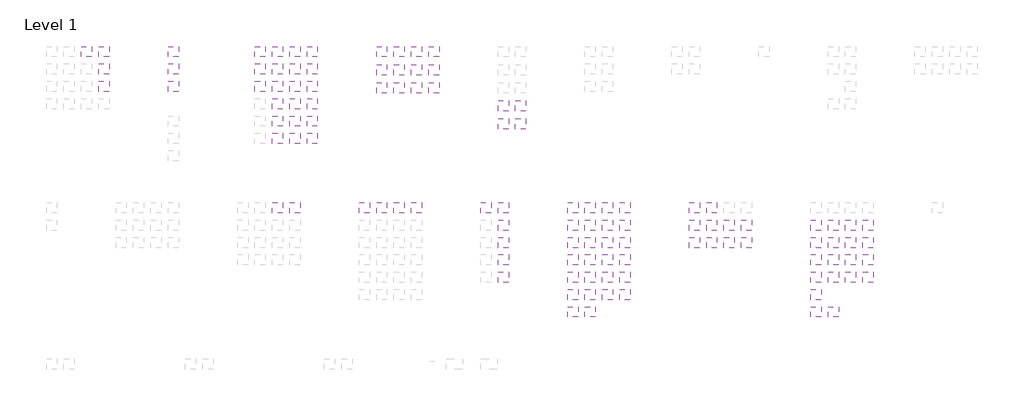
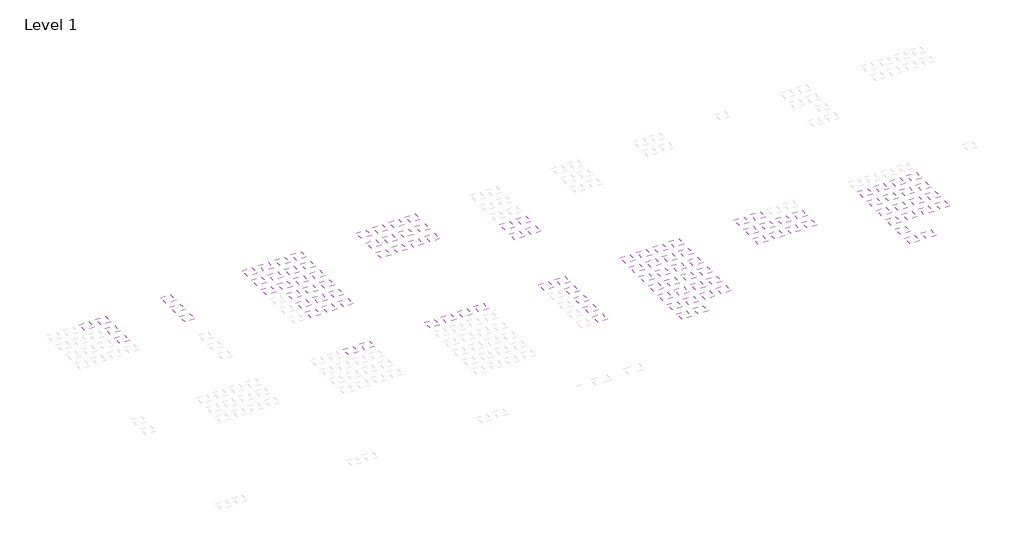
# One storey, part 2 of 4: 111 coverings.
"""IFC4 building model written with IfcOpenShell, lengths in millimetres."""

from ifc_helpers import new_model, si_unit, frame, origin, place, context, project, spatial, polyline, outline, extrude, element, save

model = new_model("IFC4")

# Units and contexts
model_context = context("Model", 3, world=origin())
ifc_project = project(units=[si_unit("LENGTHUNIT", "METRE", prefix="MILLI")], contexts=[model_context])

# Site, building, storey
site = spatial("IfcSite", under=ifc_project)
building = spatial("IfcBuilding", under=site)
storey = spatial("IfcBuildingStorey", under=building, Name="Level 1", Elevation=0.0)

# Coverings
placement = place(None, origin())
element("IfcCovering", 1, ObjectType="OWA Sinfonia l Humancare S3 625x625_15", at=placement, inside=storey, context=model_context, shape_type="SweptSolid", body=[
    extrude(outline(polyline([(68112.2416021, -61373.3850129), (68112.2416021, -64373.3850129), (65112.2416021, -64373.3850129), (65112.2416021, -61373.3850129), (68112.2416021, -61373.3850129)])), frame((0.0, 0.0, 2600.0), z_axis=(0.0, 0.0, 1.0), x_axis=(1.0, 0.0, 0.0)), (0.0, 0.0, 1.0), 38.0),
])
element("IfcCovering", 2, ObjectType="OWA Sinfonia l Humancare S3 625x1250_15", at=placement, inside=storey, context=model_context, shape_type="SweptSolid", body=[
    extrude(outline(polyline([(73110.2416021, -61373.3850129), (73110.2416021, -64373.3850129), (70110.2416021, -64373.3850129), (70110.2416021, -61373.3850129), (73110.2416021, -61373.3850129)])), frame((0.0, 0.0, 2600.0), z_axis=(0.0, 0.0, 1.0), x_axis=(1.0, 0.0, 0.0)), (0.0, 0.0, 1.0), 38.0),
])
element("IfcCovering", 3, ObjectType="OWA New Sandila/N S3 600x600_15", at=placement, inside=storey, context=model_context, shape_type="SweptSolid", body=[
    extrude(outline(polyline([(63114.2416021, -16373.3850129), (63114.2416021, -19373.3850129), (60114.2416021, -19373.3850129), (60114.2416021, -16373.3850129), (63114.2416021, -16373.3850129)])), frame((0.0, 0.0, 2600.0), z_axis=(0.0, 0.0, 1.0), x_axis=(1.0, 0.0, 0.0)), (0.0, 0.0, 1.0), 38.0),
])
element("IfcCovering", 4, ObjectType="OWA New Sandila/N S3 625x625_15", at=placement, inside=storey, context=model_context, shape_type="SweptSolid", body=[
    extrude(outline(polyline([(73114.2416021, -16373.3850129), (73114.2416021, -19373.3850129), (70114.2416021, -19373.3850129), (70114.2416021, -16373.3850129), (73114.2416021, -16373.3850129)])), frame((0.0, 0.0, 2600.0), z_axis=(0.0, 0.0, 1.0), x_axis=(1.0, 0.0, 0.0)), (0.0, 0.0, 1.0), 38.0),
])
element("IfcCovering", 5, ObjectType="OWA New Sandila/N S3 600x1200_15", at=placement, inside=storey, context=model_context, shape_type="SweptSolid", body=[
    extrude(outline(polyline([(68112.2416021, -16373.3850129), (68112.2416021, -19373.3850129), (65112.2416021, -19373.3850129), (65112.2416021, -16373.3850129), (68112.2416021, -16373.3850129)])), frame((0.0, 0.0, 2600.0), z_axis=(0.0, 0.0, 1.0), x_axis=(1.0, 0.0, 0.0)), (0.0, 0.0, 1.0), 38.0),
])
element("IfcCovering", 6, ObjectType="OWA New Sandila/N S3 625x1250_15", at=placement, inside=storey, context=model_context, shape_type="SweptSolid", body=[
    extrude(outline(polyline([(78114.2416021, -16373.3850129), (78114.2416021, -19373.3850129), (75114.2416021, -19373.3850129), (75114.2416021, -16373.3850129), (78114.2416021, -16373.3850129)])), frame((0.0, 0.0, 2600.0), z_axis=(0.0, 0.0, 1.0), x_axis=(1.0, 0.0, 0.0)), (0.0, 0.0, 1.0), 38.0),
])
element("IfcCovering", 7, ObjectType="OWA New Sandila/N S3a 600x600_15", at=placement, inside=storey, context=model_context, shape_type="SweptSolid", body=[
    extrude(outline(polyline([(63114.2416021, -26373.3850129), (63114.2416021, -29373.3850129), (60114.2416021, -29373.3850129), (60114.2416021, -26373.3850129), (63114.2416021, -26373.3850129)])), frame((0.0, 0.0, 2600.0), z_axis=(0.0, 0.0, 1.0), x_axis=(1.0, 0.0, 0.0)), (0.0, 0.0, 1.0), 38.0),
])
element("IfcCovering", 8, ObjectType="OWA New Sandila/N S3a 625x625_15", at=placement, inside=storey, context=model_context, shape_type="SweptSolid", body=[
    extrude(outline(polyline([(73114.2416021, -26373.3850129), (73114.2416021, -29373.3850129), (70114.2416021, -29373.3850129), (70114.2416021, -26373.3850129), (73114.2416021, -26373.3850129)])), frame((0.0, 0.0, 2600.0), z_axis=(0.0, 0.0, 1.0), x_axis=(1.0, 0.0, 0.0)), (0.0, 0.0, 1.0), 38.0),
])
element("IfcCovering", 9, ObjectType="OWA New Sandila/N S3a 600x1200_15", at=placement, inside=storey, context=model_context, shape_type="SweptSolid", body=[
    extrude(outline(polyline([(68112.2416021, -26373.3850129), (68112.2416021, -29373.3850129), (65112.2416021, -29373.3850129), (65112.2416021, -26373.3850129), (68112.2416021, -26373.3850129)])), frame((0.0, 0.0, 2600.0), z_axis=(0.0, 0.0, 1.0), x_axis=(1.0, 0.0, 0.0)), (0.0, 0.0, 1.0), 38.0),
])
element("IfcCovering", 10, ObjectType="OWA New Sandila/N S3a 625x1250_15", at=placement, inside=storey, context=model_context, shape_type="SweptSolid", body=[
    extrude(outline(polyline([(78114.2416021, -26373.3850129), (78114.2416021, -29373.3850129), (75114.2416021, -29373.3850129), (75114.2416021, -26373.3850129), (78114.2416021, -26373.3850129)])), frame((0.0, 0.0, 2600.0), z_axis=(0.0, 0.0, 1.0), x_axis=(1.0, 0.0, 0.0)), (0.0, 0.0, 1.0), 38.0),
])
element("IfcCovering", 11, ObjectType="OWA New Sandila/N S15 cliq 625x625_15", at=placement, inside=storey, context=model_context, shape_type="SweptSolid", body=[
    extrude(outline(polyline([(73114.2416021, -36373.3850129), (73114.2416021, -39373.3850129), (70114.2416021, -39373.3850129), (70114.2416021, -36373.3850129), (73114.2416021, -36373.3850129)])), frame((0.0, 0.0, 2600.0), z_axis=(0.0, 0.0, 1.0), x_axis=(1.0, 0.0, 0.0)), (0.0, 0.0, 1.0), 38.0),
])
element("IfcCovering", 12, ObjectType="OWA New Sandila/N S15 cliq 600x1200_15", at=placement, inside=storey, context=model_context, shape_type="SweptSolid", body=[
    extrude(outline(polyline([(68112.2416021, -36371.3850129), (68112.2416021, -39371.3850129), (65112.2416021, -39371.3850129), (65112.2416021, -36371.3850129), (68112.2416021, -36371.3850129)])), frame((0.0, 0.0, 2600.0), z_axis=(0.0, 0.0, 1.0), x_axis=(1.0, 0.0, 0.0)), (0.0, 0.0, 1.0), 38.0),
])
element("IfcCovering", 13, ObjectType="OWA New Sandila/N S15 cliq 625x1250_15", at=placement, inside=storey, context=model_context, shape_type="SweptSolid", body=[
    extrude(outline(polyline([(78114.2416021, -36373.3850129), (78114.2416021, -39373.3850129), (75114.2416021, -39373.3850129), (75114.2416021, -36373.3850129), (78114.2416021, -36373.3850129)])), frame((0.0, 0.0, 2600.0), z_axis=(0.0, 0.0, 1.0), x_axis=(1.0, 0.0, 0.0)), (0.0, 0.0, 1.0), 38.0),
])
element("IfcCovering", 14, ObjectType="OWA New Sandila/N S15a cliq 625x625_15", at=placement, inside=storey, context=model_context, shape_type="SweptSolid", body=[
    extrude(outline(polyline([(73114.2416021, -41373.3850129), (73114.2416021, -44373.3850129), (70114.2416021, -44373.3850129), (70114.2416021, -41373.3850129), (73114.2416021, -41373.3850129)])), frame((0.0, 0.0, 2600.0), z_axis=(0.0, 0.0, 1.0), x_axis=(1.0, 0.0, 0.0)), (0.0, 0.0, 1.0), 38.0),
])
element("IfcCovering", 15, ObjectType="OWA New Sandila/N S15a cliq 600x1200_15", at=placement, inside=storey, context=model_context, shape_type="SweptSolid", body=[
    extrude(outline(polyline([(68112.2416021, -41373.3850129), (68112.2416021, -44373.3850129), (65112.2416021, -44373.3850129), (65112.2416021, -41373.3850129), (68112.2416021, -41373.3850129)])), frame((0.0, 0.0, 2600.0), z_axis=(0.0, 0.0, 1.0), x_axis=(1.0, 0.0, 0.0)), (0.0, 0.0, 1.0), 38.0),
])
element("IfcCovering", 16, ObjectType="OWA New Sandila/N S15a cliq 625x1250_15", at=placement, inside=storey, context=model_context, shape_type="SweptSolid", body=[
    extrude(outline(polyline([(78114.2416021, -41373.3850129), (78114.2416021, -44373.3850129), (75114.2416021, -44373.3850129), (75114.2416021, -41373.3850129), (78114.2416021, -41373.3850129)])), frame((0.0, 0.0, 2600.0), z_axis=(0.0, 0.0, 1.0), x_axis=(1.0, 0.0, 0.0)), (0.0, 0.0, 1.0), 38.0),
])
element("IfcCovering", 17, ObjectType="OWA New Sandila/N S3a cliq 625x625_15", at=placement, inside=storey, context=model_context, shape_type="SweptSolid", body=[
    extrude(outline(polyline([(73114.2416021, -31373.3850129), (73114.2416021, -34373.3850129), (70114.2416021, -34373.3850129), (70114.2416021, -31373.3850129), (73114.2416021, -31373.3850129)])), frame((0.0, 0.0, 2600.0), z_axis=(0.0, 0.0, 1.0), x_axis=(1.0, 0.0, 0.0)), (0.0, 0.0, 1.0), 38.0),
])
element("IfcCovering", 18, ObjectType="OWA New Sandila/N S3a cliq 600x1200_15", at=placement, inside=storey, context=model_context, shape_type="SweptSolid", body=[
    extrude(outline(polyline([(68112.2416021, -31373.3850129), (68112.2416021, -34373.3850129), (65112.2416021, -34373.3850129), (65112.2416021, -31373.3850129), (68112.2416021, -31373.3850129)])), frame((0.0, 0.0, 2600.0), z_axis=(0.0, 0.0, 1.0), x_axis=(1.0, 0.0, 0.0)), (0.0, 0.0, 1.0), 38.0),
])
element("IfcCovering", 19, ObjectType="OWA New Sandila/N S3a cliq 625x1250_15", at=placement, inside=storey, context=model_context, shape_type="SweptSolid", body=[
    extrude(outline(polyline([(78114.2416021, -31373.3850129), (78114.2416021, -34373.3850129), (75114.2416021, -34373.3850129), (75114.2416021, -31373.3850129), (78114.2416021, -31373.3850129)])), frame((0.0, 0.0, 2600.0), z_axis=(0.0, 0.0, 1.0), x_axis=(1.0, 0.0, 0.0)), (0.0, 0.0, 1.0), 38.0),
])
element("IfcCovering", 20, ObjectType="OWA New Sandila/N S3 cliq 600x600_15", at=placement, inside=storey, context=model_context, shape_type="SweptSolid", body=[
    extrude(outline(polyline([(63114.2416021, -21373.3850129), (63114.2416021, -24373.3850129), (60114.2416021, -24373.3850129), (60114.2416021, -21373.3850129), (63114.2416021, -21373.3850129)])), frame((0.0, 0.0, 2600.0), z_axis=(0.0, 0.0, 1.0), x_axis=(1.0, 0.0, 0.0)), (0.0, 0.0, 1.0), 38.0),
])
element("IfcCovering", 21, ObjectType="OWA New Sandila/N S3 cliq 625x625_15", at=placement, inside=storey, context=model_context, shape_type="SweptSolid", body=[
    extrude(outline(polyline([(73114.2416021, -21373.3850129), (73114.2416021, -24373.3850129), (70114.2416021, -24373.3850129), (70114.2416021, -21373.3850129), (73114.2416021, -21373.3850129)])), frame((0.0, 0.0, 2600.0), z_axis=(0.0, 0.0, 1.0), x_axis=(1.0, 0.0, 0.0)), (0.0, 0.0, 1.0), 38.0),
])
element("IfcCovering", 22, ObjectType="OWA New Sandila/N S3 cliq 600x1200_15", at=placement, inside=storey, context=model_context, shape_type="SweptSolid", body=[
    extrude(outline(polyline([(68112.2416021, -21373.3850129), (68112.2416021, -24373.3850129), (65112.2416021, -24373.3850129), (65112.2416021, -21373.3850129), (68112.2416021, -21373.3850129)])), frame((0.0, 0.0, 2600.0), z_axis=(0.0, 0.0, 1.0), x_axis=(1.0, 0.0, 0.0)), (0.0, 0.0, 1.0), 38.0),
])
element("IfcCovering", 23, ObjectType="OWA New Sandila/N S3 cliq 625x1250_15", at=placement, inside=storey, context=model_context, shape_type="SweptSolid", body=[
    extrude(outline(polyline([(78114.2416021, -21373.3850129), (78114.2416021, -24373.3850129), (75114.2416021, -24373.3850129), (75114.2416021, -21373.3850129), (78114.2416021, -21373.3850129)])), frame((0.0, 0.0, 2600.0), z_axis=(0.0, 0.0, 1.0), x_axis=(1.0, 0.0, 0.0)), (0.0, 0.0, 1.0), 38.0),
])
element("IfcCovering", 24, ObjectType="OWA New Sandila/NRC S3a cliq 625x625_15", at=placement, inside=storey, context=model_context, shape_type="SweptSolid", body=[
    extrude(outline(polyline([(138114.2416021, -31973.3850129), (138114.2416021, -34973.3850129), (135114.2416021, -34973.3850129), (135114.2416021, -31973.3850129), (138114.2416021, -31973.3850129)])), frame((0.0, 0.0, 2600.0), z_axis=(0.0, 0.0, 1.0), x_axis=(1.0, 0.0, 0.0)), (0.0, 0.0, 1.0), 38.0),
])
element("IfcCovering", 25, ObjectType="OWA New Sandila/NRC S15 cliq 625x625_15", at=placement, inside=storey, context=model_context, shape_type="SweptSolid", body=[
    extrude(outline(polyline([(138114.2416021, -37173.3850129), (138114.2416021, -40173.3850129), (135114.2416021, -40173.3850129), (135114.2416021, -37173.3850129), (138114.2416021, -37173.3850129)])), frame((0.0, 0.0, 2600.0), z_axis=(0.0, 0.0, 1.0), x_axis=(1.0, 0.0, 0.0)), (0.0, 0.0, 1.0), 38.0),
])
element("IfcCovering", 26, ObjectType="OWA New Sandila/NRC S15 cliq 600x600_15", at=placement, inside=storey, context=model_context, shape_type="SweptSolid", body=[
    extrude(outline(polyline([(133114.2416021, -37173.3850129), (133114.2416021, -40173.3850129), (130114.2416021, -40173.3850129), (130114.2416021, -37173.3850129), (133114.2416021, -37173.3850129)])), frame((0.0, 0.0, 2600.0), z_axis=(0.0, 0.0, 1.0), x_axis=(1.0, 0.0, 0.0)), (0.0, 0.0, 1.0), 38.0),
])
element("IfcCovering", 27, ObjectType="OWA New Sandila/NRC S3a cliq 600x600_15", at=placement, inside=storey, context=model_context, shape_type="SweptSolid", body=[
    extrude(outline(polyline([(133114.2416021, -31973.3850129), (133114.2416021, -34973.3850129), (130114.2416021, -34973.3850129), (130114.2416021, -31973.3850129), (133114.2416021, -31973.3850129)])), frame((0.0, 0.0, 2600.0), z_axis=(0.0, 0.0, 1.0), x_axis=(1.0, 0.0, 0.0)), (0.0, 0.0, 1.0), 38.0),
])
element("IfcCovering", 28, ObjectType="OWA Sinfonia Privacy S3 600x600_20", at=placement, inside=storey, context=model_context, shape_type="SweptSolid", body=[
    extrude(outline(polyline([(93110.2416021, -61373.3850129), (93110.2416021, -64373.3850129), (90110.2416021, -64373.3850129), (90110.2416021, -61373.3850129), (93110.2416021, -61373.3850129)])), frame((0.0, 0.0, 2600.0), z_axis=(0.0, 0.0, 1.0), x_axis=(1.0, 0.0, 0.0)), (0.0, 0.0, 1.0), 38.0),
])
element("IfcCovering", 29, ObjectType="OWA Sinfonia Privacy S3 625x625_20", at=placement, inside=storey, context=model_context, shape_type="SweptSolid", body=[
    extrude(outline(polyline([(103110.2416021, -61373.3850129), (103110.2416021, -64373.3850129), (100110.2416021, -64373.3850129), (100110.2416021, -61373.3850129), (103110.2416021, -61373.3850129)])), frame((0.0, 0.0, 2600.0), z_axis=(0.0, 0.0, 1.0), x_axis=(1.0, 0.0, 0.0)), (0.0, 0.0, 1.0), 38.0),
])
element("IfcCovering", 30, ObjectType="OWA Sinfonia Privacy S3 600x1200_20", at=placement, inside=storey, context=model_context, shape_type="SweptSolid", body=[
    extrude(outline(polyline([(98112.2416021, -61373.3850129), (98112.2416021, -64373.3850129), (95112.2416021, -64373.3850129), (95112.2416021, -61373.3850129), (98112.2416021, -61373.3850129)])), frame((0.0, 0.0, 2600.0), z_axis=(0.0, 0.0, 1.0), x_axis=(1.0, 0.0, 0.0)), (0.0, 0.0, 1.0), 38.0),
])
element("IfcCovering", 31, ObjectType="OWA Sinfonia Privacy S3 625x1250_20", at=placement, inside=storey, context=model_context, shape_type="SweptSolid", body=[
    extrude(outline(polyline([(108112.2416021, -61373.3850129), (108112.2416021, -64373.3850129), (105112.2416021, -64373.3850129), (105112.2416021, -61373.3850129), (108112.2416021, -61373.3850129)])), frame((0.0, 0.0, 2600.0), z_axis=(0.0, 0.0, 1.0), x_axis=(1.0, 0.0, 0.0)), (0.0, 0.0, 1.0), 38.0),
])
element("IfcCovering", 32, ObjectType="OWA Sinfonia Reflecta S3 625x625_15", at=placement, inside=storey, context=model_context, shape_type="SweptSolid", body=[
    extrude(outline(polyline([(133108.2416021, -61373.3850129), (133108.2416021, -64373.3850129), (130108.2416021, -64373.3850129), (130108.2416021, -61373.3850129), (133108.2416021, -61373.3850129)])), frame((0.0, 0.0, 2600.0), z_axis=(0.0, 0.0, 1.0), x_axis=(1.0, 0.0, 0.0)), (0.0, 0.0, 1.0), 38.0),
])
element("IfcCovering", 33, ObjectType="OWA Sinfonia Reflecta S3 600x600_15", at=placement, inside=storey, context=model_context, shape_type="SweptSolid", body=[
    extrude(outline(polyline([(128108.2416021, -61373.3850129), (128108.2416021, -64373.3850129), (125108.2416021, -64373.3850129), (125108.2416021, -61373.3850129), (128108.2416021, -61373.3850129)])), frame((0.0, 0.0, 2600.0), z_axis=(0.0, 0.0, 1.0), x_axis=(1.0, 0.0, 0.0)), (0.0, 0.0, 1.0), 38.0),
])
element("IfcCovering", 34, ObjectType="OWA Sinfonia Reflecta S3a 625x625_15", at=placement, inside=storey, context=model_context, shape_type="SweptSolid", body=[
    extrude(outline(polyline([(133108.2416021, -71373.3850129), (133108.2416021, -74373.3850129), (130108.2416021, -74373.3850129), (130108.2416021, -71373.3850129), (133108.2416021, -71373.3850129)])), frame((0.0, 0.0, 2600.0), z_axis=(0.0, 0.0, 1.0), x_axis=(1.0, 0.0, 0.0)), (0.0, 0.0, 1.0), 38.0),
])
element("IfcCovering", 35, ObjectType="OWA Sinfonia S15b 600x600_15", at=placement, inside=storey, context=model_context, shape_type="SweptSolid", body=[
    extrude(outline(polyline([(153110.2416021, -91373.3850129), (153110.2416021, -94373.3850129), (150110.2416021, -94373.3850129), (150110.2416021, -91373.3850129), (153110.2416021, -91373.3850129)])), frame((0.0, 0.0, 2600.0), z_axis=(0.0, 0.0, 1.0), x_axis=(1.0, 0.0, 0.0)), (0.0, 0.0, 1.0), 38.0),
])
element("IfcCovering", 36, ObjectType="OWA Sinfonia S15b 625x625_15", at=placement, inside=storey, context=model_context, shape_type="SweptSolid", body=[
    extrude(outline(polyline([(158108.2416021, -91375.3850129), (158108.2416021, -94375.3850129), (155108.2416021, -94375.3850129), (155108.2416021, -91375.3850129), (158108.2416021, -91375.3850129)])), frame((0.0, 0.0, 2600.0), z_axis=(0.0, 0.0, 1.0), x_axis=(1.0, 0.0, 0.0)), (0.0, 0.0, 1.0), 38.0),
])
element("IfcCovering", 37, ObjectType="OWA Sinfonia S3a 600x600_15", at=placement, inside=storey, context=model_context, shape_type="SweptSolid", body=[
    extrude(outline(polyline([(153110.2416021, -71373.3850129), (153110.2416021, -74373.3850129), (150110.2416021, -74373.3850129), (150110.2416021, -71373.3850129), (153110.2416021, -71373.3850129)])), frame((0.0, 0.0, 2600.0), z_axis=(0.0, 0.0, 1.0), x_axis=(1.0, 0.0, 0.0)), (0.0, 0.0, 1.0), 38.0),
])
element("IfcCovering", 38, ObjectType="OWA Sinfonia S3a 625x625_15", at=placement, inside=storey, context=model_context, shape_type="SweptSolid", body=[
    extrude(outline(polyline([(163106.2416021, -71373.3850129), (163106.2416021, -74373.3850129), (160106.2416021, -74373.3850129), (160106.2416021, -71373.3850129), (163106.2416021, -71373.3850129)])), frame((0.0, 0.0, 2600.0), z_axis=(0.0, 0.0, 1.0), x_axis=(1.0, 0.0, 0.0)), (0.0, 0.0, 1.0), 38.0),
])
element("IfcCovering", 39, ObjectType="OWA Sinfonia S3a 600x1200_15", at=placement, inside=storey, context=model_context, shape_type="SweptSolid", body=[
    extrude(outline(polyline([(158108.2416021, -71373.3850129), (158108.2416021, -74373.3850129), (155108.2416021, -74373.3850129), (155108.2416021, -71373.3850129), (158108.2416021, -71373.3850129)])), frame((0.0, 0.0, 2600.0), z_axis=(0.0, 0.0, 1.0), x_axis=(1.0, 0.0, 0.0)), (0.0, 0.0, 1.0), 38.0),
])
element("IfcCovering", 40, ObjectType="OWA Sinfonia S3a 625x1250_15", at=placement, inside=storey, context=model_context, shape_type="SweptSolid", body=[
    extrude(outline(polyline([(168108.2416021, -71373.3850129), (168108.2416021, -74373.3850129), (165108.2416021, -74373.3850129), (165108.2416021, -71373.3850129), (168108.2416021, -71373.3850129)])), frame((0.0, 0.0, 2600.0), z_axis=(0.0, 0.0, 1.0), x_axis=(1.0, 0.0, 0.0)), (0.0, 0.0, 1.0), 38.0),
])
element("IfcCovering", 41, ObjectType="OWA Sinfonia S15 cliq 600x600_15", at=placement, inside=storey, context=model_context, shape_type="SweptSolid", body=[
    extrude(outline(polyline([(153110.2416021, -81373.3850129), (153110.2416021, -84373.3850129), (150110.2416021, -84373.3850129), (150110.2416021, -81373.3850129), (153110.2416021, -81373.3850129)])), frame((0.0, 0.0, 2600.0), z_axis=(0.0, 0.0, 1.0), x_axis=(1.0, 0.0, 0.0)), (0.0, 0.0, 1.0), 38.0),
])
element("IfcCovering", 42, ObjectType="OWA Sinfonia S15 cliq 625x625_15", at=placement, inside=storey, context=model_context, shape_type="SweptSolid", body=[
    extrude(outline(polyline([(163106.2416021, -81373.3850129), (163106.2416021, -84373.3850129), (160106.2416021, -84373.3850129), (160106.2416021, -81373.3850129), (163106.2416021, -81373.3850129)])), frame((0.0, 0.0, 2600.0), z_axis=(0.0, 0.0, 1.0), x_axis=(1.0, 0.0, 0.0)), (0.0, 0.0, 1.0), 38.0),
])
element("IfcCovering", 43, ObjectType="OWA Sinfonia S15 cliq 600x1200_15", at=placement, inside=storey, context=model_context, shape_type="SweptSolid", body=[
    extrude(outline(polyline([(158108.2416021, -81373.3850129), (158108.2416021, -84373.3850129), (155108.2416021, -84373.3850129), (155108.2416021, -81373.3850129), (158108.2416021, -81373.3850129)])), frame((0.0, 0.0, 2600.0), z_axis=(0.0, 0.0, 1.0), x_axis=(1.0, 0.0, 0.0)), (0.0, 0.0, 1.0), 38.0),
])
element("IfcCovering", 44, ObjectType="OWA Sinfonia S15 cliq 625x1250_15", at=placement, inside=storey, context=model_context, shape_type="SweptSolid", body=[
    extrude(outline(polyline([(168108.2416021, -81373.3850129), (168108.2416021, -84373.3850129), (165108.2416021, -84373.3850129), (165108.2416021, -81373.3850129), (168108.2416021, -81373.3850129)])), frame((0.0, 0.0, 2600.0), z_axis=(0.0, 0.0, 1.0), x_axis=(1.0, 0.0, 0.0)), (0.0, 0.0, 1.0), 38.0),
])
element("IfcCovering", 45, ObjectType="OWA Sinfonia S15a cliq 600x600_15", at=placement, inside=storey, context=model_context, shape_type="SweptSolid", body=[
    extrude(outline(polyline([(153110.2416021, -86373.3850129), (153110.2416021, -89373.3850129), (150110.2416021, -89373.3850129), (150110.2416021, -86373.3850129), (153110.2416021, -86373.3850129)])), frame((0.0, 0.0, 2600.0), z_axis=(0.0, 0.0, 1.0), x_axis=(1.0, 0.0, 0.0)), (0.0, 0.0, 1.0), 38.0),
])
element("IfcCovering", 46, ObjectType="OWA Sinfonia S15a cliq 600x1200_15", at=placement, inside=storey, context=model_context, shape_type="SweptSolid", body=[
    extrude(outline(polyline([(158108.2416021, -86373.3850129), (158108.2416021, -89373.3850129), (155108.2416021, -89373.3850129), (155108.2416021, -86373.3850129), (158108.2416021, -86373.3850129)])), frame((0.0, 0.0, 2600.0), z_axis=(0.0, 0.0, 1.0), x_axis=(1.0, 0.0, 0.0)), (0.0, 0.0, 1.0), 38.0),
])
element("IfcCovering", 47, ObjectType="OWA Sinfonia S15a cliq 625x1250_15", at=placement, inside=storey, context=model_context, shape_type="SweptSolid", body=[
    extrude(outline(polyline([(168108.2416021, -86373.3850129), (168108.2416021, -89373.3850129), (165108.2416021, -89373.3850129), (165108.2416021, -86373.3850129), (168108.2416021, -86373.3850129)])), frame((0.0, 0.0, 2600.0), z_axis=(0.0, 0.0, 1.0), x_axis=(1.0, 0.0, 0.0)), (0.0, 0.0, 1.0), 38.0),
])
element("IfcCovering", 48, ObjectType="OWA Sinfonia S15a cliq 625x625_15", at=placement, inside=storey, context=model_context, shape_type="SweptSolid", body=[
    extrude(outline(polyline([(163106.2416021, -86373.3850129), (163106.2416021, -89373.3850129), (160106.2416021, -89373.3850129), (160106.2416021, -86373.3850129), (163106.2416021, -86373.3850129)])), frame((0.0, 0.0, 2600.0), z_axis=(0.0, 0.0, 1.0), x_axis=(1.0, 0.0, 0.0)), (0.0, 0.0, 1.0), 38.0),
])
element("IfcCovering", 49, ObjectType="OWA Sinfonia S3a cliq 600x600_15", at=placement, inside=storey, context=model_context, shape_type="SweptSolid", body=[
    extrude(outline(polyline([(153110.2416021, -76373.3850129), (153110.2416021, -79373.3850129), (150110.2416021, -79373.3850129), (150110.2416021, -76373.3850129), (153110.2416021, -76373.3850129)])), frame((0.0, 0.0, 2600.0), z_axis=(0.0, 0.0, 1.0), x_axis=(1.0, 0.0, 0.0)), (0.0, 0.0, 1.0), 38.0),
])
element("IfcCovering", 50, ObjectType="OWA Sinfonia S3a cliq 625x625_15", at=placement, inside=storey, context=model_context, shape_type="SweptSolid", body=[
    extrude(outline(polyline([(163106.2416021, -76373.3850129), (163106.2416021, -79373.3850129), (160106.2416021, -79373.3850129), (160106.2416021, -76373.3850129), (163106.2416021, -76373.3850129)])), frame((0.0, 0.0, 2600.0), z_axis=(0.0, 0.0, 1.0), x_axis=(1.0, 0.0, 0.0)), (0.0, 0.0, 1.0), 38.0),
])
element("IfcCovering", 51, ObjectType="OWA Sinfonia S3a cliq 600x1200_15", at=placement, inside=storey, context=model_context, shape_type="SweptSolid", body=[
    extrude(outline(polyline([(158108.2416021, -76373.3850129), (158108.2416021, -79373.3850129), (155108.2416021, -79373.3850129), (155108.2416021, -76373.3850129), (158108.2416021, -76373.3850129)])), frame((0.0, 0.0, 2600.0), z_axis=(0.0, 0.0, 1.0), x_axis=(1.0, 0.0, 0.0)), (0.0, 0.0, 1.0), 38.0),
])
element("IfcCovering", 52, ObjectType="OWA Sinfonia S3a cliq 625x1250_15", at=placement, inside=storey, context=model_context, shape_type="SweptSolid", body=[
    extrude(outline(polyline([(168108.2416021, -76373.3850129), (168108.2416021, -79373.3850129), (165108.2416021, -79373.3850129), (165108.2416021, -76373.3850129), (168108.2416021, -76373.3850129)])), frame((0.0, 0.0, 2600.0), z_axis=(0.0, 0.0, 1.0), x_axis=(1.0, 0.0, 0.0)), (0.0, 0.0, 1.0), 38.0),
])
element("IfcCovering", 53, ObjectType="OWA Sinfonia S3 cliq 600x600_15", at=placement, inside=storey, context=model_context, shape_type="SweptSolid", body=[
    extrude(outline(polyline([(153110.2416021, -66373.3850129), (153110.2416021, -69373.3850129), (150110.2416021, -69373.3850129), (150110.2416021, -66373.3850129), (153110.2416021, -66373.3850129)])), frame((0.0, 0.0, 2600.0), z_axis=(0.0, 0.0, 1.0), x_axis=(1.0, 0.0, 0.0)), (0.0, 0.0, 1.0), 38.0),
])
element("IfcCovering", 54, ObjectType="OWA Sinfonia S3 cliq 625x625_15", at=placement, inside=storey, context=model_context, shape_type="SweptSolid", body=[
    extrude(outline(polyline([(163106.2416021, -66373.3850129), (163106.2416021, -69373.3850129), (160106.2416021, -69373.3850129), (160106.2416021, -66373.3850129), (163106.2416021, -66373.3850129)])), frame((0.0, 0.0, 2600.0), z_axis=(0.0, 0.0, 1.0), x_axis=(1.0, 0.0, 0.0)), (0.0, 0.0, 1.0), 38.0),
])
element("IfcCovering", 55, ObjectType="OWA Sinfonia S3 cliq 600x1200_15", at=placement, inside=storey, context=model_context, shape_type="SweptSolid", body=[
    extrude(outline(polyline([(158108.2416021, -66373.3850129), (158108.2416021, -69373.3850129), (155108.2416021, -69373.3850129), (155108.2416021, -66373.3850129), (158108.2416021, -66373.3850129)])), frame((0.0, 0.0, 2600.0), z_axis=(0.0, 0.0, 1.0), x_axis=(1.0, 0.0, 0.0)), (0.0, 0.0, 1.0), 38.0),
])
element("IfcCovering", 56, ObjectType="OWA Sinfonia S3 600x600_15", at=placement, inside=storey, context=model_context, shape_type="SweptSolid", body=[
    extrude(outline(polyline([(153110.2416021, -61373.3850129), (153110.2416021, -64373.3850129), (150110.2416021, -64373.3850129), (150110.2416021, -61373.3850129), (153110.2416021, -61373.3850129)])), frame((0.0, 0.0, 2600.0), z_axis=(0.0, 0.0, 1.0), x_axis=(1.0, 0.0, 0.0)), (0.0, 0.0, 1.0), 38.0),
])
element("IfcCovering", 57, ObjectType="OWA Sinfonia S3 625x625_15", at=placement, inside=storey, context=model_context, shape_type="SweptSolid", body=[
    extrude(outline(polyline([(163106.2416021, -61373.3850129), (163106.2416021, -64373.3850129), (160106.2416021, -64373.3850129), (160106.2416021, -61373.3850129), (163106.2416021, -61373.3850129)])), frame((0.0, 0.0, 2600.0), z_axis=(0.0, 0.0, 1.0), x_axis=(1.0, 0.0, 0.0)), (0.0, 0.0, 1.0), 38.0),
])
element("IfcCovering", 58, ObjectType="OWA Sinfonia S3 600x1200_15", at=placement, inside=storey, context=model_context, shape_type="SweptSolid", body=[
    extrude(outline(polyline([(158108.2416021, -61373.3850129), (158108.2416021, -64373.3850129), (155108.2416021, -64373.3850129), (155108.2416021, -61373.3850129), (158108.2416021, -61373.3850129)])), frame((0.0, 0.0, 2600.0), z_axis=(0.0, 0.0, 1.0), x_axis=(1.0, 0.0, 0.0)), (0.0, 0.0, 1.0), 38.0),
])
element("IfcCovering", 59, ObjectType="OWA Sinfonia S3 625x1250_15", at=placement, inside=storey, context=model_context, shape_type="SweptSolid", body=[
    extrude(outline(polyline([(168108.2416021, -61373.3850129), (168108.2416021, -64373.3850129), (165108.2416021, -64373.3850129), (165108.2416021, -61373.3850129), (168108.2416021, -61373.3850129)])), frame((0.0, 0.0, 2600.0), z_axis=(0.0, 0.0, 1.0), x_axis=(1.0, 0.0, 0.0)), (0.0, 0.0, 1.0), 38.0),
])
element("IfcCovering", 60, ObjectType="OWA Sinfonia S3 cliq 625x1250_15", at=placement, inside=storey, context=model_context, shape_type="SweptSolid", body=[
    extrude(outline(polyline([(168108.2416021, -66373.3850129), (168108.2416021, -69373.3850129), (165108.2416021, -69373.3850129), (165108.2416021, -66373.3850129), (168108.2416021, -66373.3850129)])), frame((0.0, 0.0, 2600.0), z_axis=(0.0, 0.0, 1.0), x_axis=(1.0, 0.0, 0.0)), (0.0, 0.0, 1.0), 38.0),
])
element("IfcCovering", 61, ObjectType="OWA Sinfonia Silencia l Humancare S3 600x1200_20", at=placement, inside=storey, context=model_context, shape_type="SweptSolid", body=[
    extrude(outline(polyline([(193108.2416021, -61373.3850129), (193108.2416021, -64373.3850129), (190108.2416021, -64373.3850129), (190108.2416021, -61373.3850129), (193108.2416021, -61373.3850129)])), frame((0.0, 0.0, 2600.0), z_axis=(0.0, 0.0, 1.0), x_axis=(1.0, 0.0, 0.0)), (0.0, 0.0, 1.0), 38.0),
])
element("IfcCovering", 62, ObjectType="OWA Sinfonia Silencia l Humancare S3 600x600_20", at=placement, inside=storey, context=model_context, shape_type="SweptSolid", body=[
    extrude(outline(polyline([(188108.2416021, -61373.3850129), (188108.2416021, -64373.3850129), (185108.2416021, -64373.3850129), (185108.2416021, -61373.3850129), (188108.2416021, -61373.3850129)])), frame((0.0, 0.0, 2600.0), z_axis=(0.0, 0.0, 1.0), x_axis=(1.0, 0.0, 0.0)), (0.0, 0.0, 1.0), 38.0),
])
element("IfcCovering", 63, ObjectType="OWA Humancare Pro S3 625x625_20", at=placement, inside=storey, context=model_context, shape_type="SweptSolid", body=[
    extrude(outline(polyline([(13112.2416021, -16373.3850129), (13112.2416021, -19373.3850129), (10112.2416021, -19373.3850129), (10112.2416021, -16373.3850129), (13112.2416021, -16373.3850129)])), frame((0.0, 0.0, 2600.0), z_axis=(0.0, 0.0, 1.0), x_axis=(1.0, 0.0, 0.0)), (0.0, 0.0, 1.0), 38.0),
])
element("IfcCovering", 64, ObjectType="OWA Humancare Pro S3 625x1250_20", at=placement, inside=storey, context=model_context, shape_type="SweptSolid", body=[
    extrude(outline(polyline([(18112.2416021, -16373.3850129), (18112.2416021, -19373.3850129), (15112.2416021, -19373.3850129), (15112.2416021, -16373.3850129), (18112.2416021, -16373.3850129)])), frame((0.0, 0.0, 2600.0), z_axis=(0.0, 0.0, 1.0), x_axis=(1.0, 0.0, 0.0)), (0.0, 0.0, 1.0), 38.0),
])
element("IfcCovering", 65, ObjectType="OWA Humancare Pro S3 cliq 625x1250_20", at=placement, inside=storey, context=model_context, shape_type="SweptSolid", body=[
    extrude(outline(polyline([(18112.2416021, -21373.3850129), (18112.2416021, -24373.3850129), (15112.2416021, -24373.3850129), (15112.2416021, -21373.3850129), (18112.2416021, -21373.3850129)])), frame((0.0, 0.0, 2600.0), z_axis=(0.0, 0.0, 1.0), x_axis=(1.0, 0.0, 0.0)), (0.0, 0.0, 1.0), 38.0),
])
element("IfcCovering", 66, ObjectType="OWA Humancare Pro S3e 625x1250_20", at=placement, inside=storey, context=model_context, shape_type="SweptSolid", body=[
    extrude(outline(polyline([(18114.2416021, -26373.3850129), (18114.2416021, -29373.3850129), (15114.2416021, -29373.3850129), (15114.2416021, -26373.3850129), (18114.2416021, -26373.3850129)])), frame((0.0, 0.0, 2600.0), z_axis=(0.0, 0.0, 1.0), x_axis=(1.0, 0.0, 0.0)), (0.0, 0.0, 1.0), 38.0),
])
element("IfcCovering", 67, ObjectType="OWA New Sandila/N smart S3 600x600_14", at=placement, inside=storey, context=model_context, shape_type="SweptSolid", body=[
    extrude(outline(polyline([(98114.2416021, -16373.3850129), (98114.2416021, -19373.3850129), (95114.2416021, -19373.3850129), (95114.2416021, -16373.3850129), (98114.2416021, -16373.3850129)])), frame((0.0, 0.0, 2600.0), z_axis=(0.0, 0.0, 1.0), x_axis=(1.0, 0.0, 0.0)), (0.0, 0.0, 1.0), 38.0),
])
element("IfcCovering", 68, ObjectType="OWA New Sandila/N smart S3 625x625_14", at=placement, inside=storey, context=model_context, shape_type="SweptSolid", body=[
    extrude(outline(polyline([(108114.2416021, -16373.3850129), (108114.2416021, -19373.3850129), (105114.2416021, -19373.3850129), (105114.2416021, -16373.3850129), (108114.2416021, -16373.3850129)])), frame((0.0, 0.0, 2600.0), z_axis=(0.0, 0.0, 1.0), x_axis=(1.0, 0.0, 0.0)), (0.0, 0.0, 1.0), 38.0),
])
element("IfcCovering", 69, ObjectType="OWA New Sandila/N smart S3 625x1250_14", at=placement, inside=storey, context=model_context, shape_type="SweptSolid", body=[
    extrude(outline(polyline([(113114.2416021, -16373.3850129), (113114.2416021, -19373.3850129), (110114.2416021, -19373.3850129), (110114.2416021, -16373.3850129), (113114.2416021, -16373.3850129)])), frame((0.0, 0.0, 2600.0), z_axis=(0.0, 0.0, 1.0), x_axis=(1.0, 0.0, 0.0)), (0.0, 0.0, 1.0), 38.0),
])
element("IfcCovering", 70, ObjectType="OWA New Sandila/N smart S3 600x1200_14", at=placement, inside=storey, context=model_context, shape_type="SweptSolid", body=[
    extrude(outline(polyline([(103114.2416021, -16373.3850129), (103114.2416021, -19373.3850129), (100114.2416021, -19373.3850129), (100114.2416021, -16373.3850129), (103114.2416021, -16373.3850129)])), frame((0.0, 0.0, 2600.0), z_axis=(0.0, 0.0, 1.0), x_axis=(1.0, 0.0, 0.0)), (0.0, 0.0, 1.0), 38.0),
])
element("IfcCovering", 71, ObjectType="OWA New Sandila/N smart S3 cliq 600x600_14", at=placement, inside=storey, context=model_context, shape_type="SweptSolid", body=[
    extrude(outline(polyline([(98114.2416021, -21573.3850129), (98114.2416021, -24573.3850129), (95114.2416021, -24573.3850129), (95114.2416021, -21573.3850129), (98114.2416021, -21573.3850129)])), frame((0.0, 0.0, 2600.0), z_axis=(0.0, 0.0, 1.0), x_axis=(1.0, 0.0, 0.0)), (0.0, 0.0, 1.0), 38.0),
])
element("IfcCovering", 72, ObjectType="OWA New Sandila/N smart S3 cliq 625x625_14", at=placement, inside=storey, context=model_context, shape_type="SweptSolid", body=[
    extrude(outline(polyline([(108114.2416021, -21573.3850129), (108114.2416021, -24573.3850129), (105114.2416021, -24573.3850129), (105114.2416021, -21573.3850129), (108114.2416021, -21573.3850129)])), frame((0.0, 0.0, 2600.0), z_axis=(0.0, 0.0, 1.0), x_axis=(1.0, 0.0, 0.0)), (0.0, 0.0, 1.0), 38.0),
])
element("IfcCovering", 73, ObjectType="OWA New Sandila/N smart S3 cliq 625x1250_14", at=placement, inside=storey, context=model_context, shape_type="SweptSolid", body=[
    extrude(outline(polyline([(113114.2416021, -21573.3850129), (113114.2416021, -24573.3850129), (110114.2416021, -24573.3850129), (110114.2416021, -21573.3850129), (113114.2416021, -21573.3850129)])), frame((0.0, 0.0, 2600.0), z_axis=(0.0, 0.0, 1.0), x_axis=(1.0, 0.0, 0.0)), (0.0, 0.0, 1.0), 38.0),
])
element("IfcCovering", 74, ObjectType="OWA New Sandila/N smart S3 cliq 600x1200_14", at=placement, inside=storey, context=model_context, shape_type="SweptSolid", body=[
    extrude(outline(polyline([(103114.2416021, -21573.3850129), (103114.2416021, -24573.3850129), (100114.2416021, -24573.3850129), (100114.2416021, -21573.3850129), (103114.2416021, -21573.3850129)])), frame((0.0, 0.0, 2600.0), z_axis=(0.0, 0.0, 1.0), x_axis=(1.0, 0.0, 0.0)), (0.0, 0.0, 1.0), 38.0),
])
element("IfcCovering", 75, ObjectType="OWA New Sandila/N smart S15 cliq 600x600_14", at=placement, inside=storey, context=model_context, shape_type="SweptSolid", body=[
    extrude(outline(polyline([(98114.2416021, -26773.3850129), (98114.2416021, -29773.3850129), (95114.2416021, -29773.3850129), (95114.2416021, -26773.3850129), (98114.2416021, -26773.3850129)])), frame((0.0, 0.0, 2600.0), z_axis=(0.0, 0.0, 1.0), x_axis=(1.0, 0.0, 0.0)), (0.0, 0.0, 1.0), 38.0),
])
element("IfcCovering", 76, ObjectType="OWA New Sandila/N smart S15 cliq 625x625_14", at=placement, inside=storey, context=model_context, shape_type="SweptSolid", body=[
    extrude(outline(polyline([(108114.2416021, -26773.3850129), (108114.2416021, -29773.3850129), (105114.2416021, -29773.3850129), (105114.2416021, -26773.3850129), (108114.2416021, -26773.3850129)])), frame((0.0, 0.0, 2600.0), z_axis=(0.0, 0.0, 1.0), x_axis=(1.0, 0.0, 0.0)), (0.0, 0.0, 1.0), 38.0),
])
element("IfcCovering", 77, ObjectType="OWA New Sandila/N smart S15 cliq 625x1250_14", at=placement, inside=storey, context=model_context, shape_type="SweptSolid", body=[
    extrude(outline(polyline([(113114.2416021, -26773.3850129), (113114.2416021, -29773.3850129), (110114.2416021, -29773.3850129), (110114.2416021, -26773.3850129), (113114.2416021, -26773.3850129)])), frame((0.0, 0.0, 2600.0), z_axis=(0.0, 0.0, 1.0), x_axis=(1.0, 0.0, 0.0)), (0.0, 0.0, 1.0), 38.0),
])
element("IfcCovering", 78, ObjectType="OWA New Sandila/N smart S15 cliq 600x1200_14", at=placement, inside=storey, context=model_context, shape_type="SweptSolid", body=[
    extrude(outline(polyline([(103114.2416021, -26773.3850129), (103114.2416021, -29773.3850129), (100114.2416021, -29773.3850129), (100114.2416021, -26773.3850129), (103114.2416021, -26773.3850129)])), frame((0.0, 0.0, 2600.0), z_axis=(0.0, 0.0, 1.0), x_axis=(1.0, 0.0, 0.0)), (0.0, 0.0, 1.0), 38.0),
])
element("IfcCovering", 79, ObjectType="OWA Sinfonia Reflecta S3 cliq 625x625_15", at=placement, inside=storey, context=model_context, shape_type="SweptSolid", body=[
    extrude(outline(polyline([(133108.2416021, -66373.3850129), (133108.2416021, -69373.3850129), (130108.2416021, -69373.3850129), (130108.2416021, -66373.3850129), (133108.2416021, -66373.3850129)])), frame((0.0, 0.0, 2600.0), z_axis=(0.0, 0.0, 1.0), x_axis=(1.0, 0.0, 0.0)), (0.0, 0.0, 1.0), 38.0),
])
element("IfcCovering", 80, ObjectType="OWA Sinfonia Reflecta S3a cliq 625x625_15", at=placement, inside=storey, context=model_context, shape_type="SweptSolid", body=[
    extrude(outline(polyline([(133108.2416021, -76373.3850129), (133108.2416021, -79373.3850129), (130108.2416021, -79373.3850129), (130108.2416021, -76373.3850129), (133108.2416021, -76373.3850129)])), frame((0.0, 0.0, 2600.0), z_axis=(0.0, 0.0, 1.0), x_axis=(1.0, 0.0, 0.0)), (0.0, 0.0, 1.0), 38.0),
])
element("IfcCovering", 81, ObjectType="OWA Sinfonia Reflecta S15 cliq 625x625_15", at=placement, inside=storey, context=model_context, shape_type="SweptSolid", body=[
    extrude(outline(polyline([(133108.2416021, -81373.3850129), (133108.2416021, -84373.3850129), (130108.2416021, -84373.3850129), (130108.2416021, -81373.3850129), (133108.2416021, -81373.3850129)])), frame((0.0, 0.0, 2600.0), z_axis=(0.0, 0.0, 1.0), x_axis=(1.0, 0.0, 0.0)), (0.0, 0.0, 1.0), 38.0),
])
element("IfcCovering", 82, ObjectType="OWA Sinfonia Silencia S3 cliq 625x625_20", at=placement, inside=storey, context=model_context, shape_type="SweptSolid", body=[
    extrude(outline(polyline([(233106.2416021, -66373.3850129), (233106.2416021, -69373.3850129), (230106.2416021, -69373.3850129), (230106.2416021, -66373.3850129), (233106.2416021, -66373.3850129)])), frame((0.0, 0.0, 2600.0), z_axis=(0.0, 0.0, 1.0), x_axis=(1.0, 0.0, 0.0)), (0.0, 0.0, 1.0), 38.0),
])
element("IfcCovering", 83, ObjectType="OWA Sinfonia Silencia S15 cliq 625x625_20", at=placement, inside=storey, context=model_context, shape_type="SweptSolid", body=[
    extrude(outline(polyline([(233106.2416021, -81373.3850129), (233106.2416021, -84373.3850129), (230106.2416021, -84373.3850129), (230106.2416021, -81373.3850129), (233106.2416021, -81373.3850129)])), frame((0.0, 0.0, 2600.0), z_axis=(0.0, 0.0, 1.0), x_axis=(1.0, 0.0, 0.0)), (0.0, 0.0, 1.0), 38.0),
])
element("IfcCovering", 84, ObjectType="OWA Sinfonia Silencia S3 cliq 600x1200_20", at=placement, inside=storey, context=model_context, shape_type="SweptSolid", body=[
    extrude(outline(polyline([(228106.2416021, -66373.3850129), (228106.2416021, -69373.3850129), (225106.2416021, -69373.3850129), (225106.2416021, -66373.3850129), (228106.2416021, -66373.3850129)])), frame((0.0, 0.0, 2600.0), z_axis=(0.0, 0.0, 1.0), x_axis=(1.0, 0.0, 0.0)), (0.0, 0.0, 1.0), 38.0),
])
element("IfcCovering", 85, ObjectType="OWA Sinfonia Silencia S15 cliq 600x1200_20", at=placement, inside=storey, context=model_context, shape_type="SweptSolid", body=[
    extrude(outline(polyline([(228106.2416021, -81373.3850129), (228106.2416021, -84373.3850129), (225106.2416021, -84373.3850129), (225106.2416021, -81373.3850129), (228106.2416021, -81373.3850129)])), frame((0.0, 0.0, 2600.0), z_axis=(0.0, 0.0, 1.0), x_axis=(1.0, 0.0, 0.0)), (0.0, 0.0, 1.0), 38.0),
])
element("IfcCovering", 86, ObjectType="OWA Sinfonia Silencia S3 cliq 600x600_20", at=placement, inside=storey, context=model_context, shape_type="SweptSolid", body=[
    extrude(outline(polyline([(223106.2416021, -66373.3850129), (223106.2416021, -69373.3850129), (220106.2416021, -69373.3850129), (220106.2416021, -66373.3850129), (223106.2416021, -66373.3850129)])), frame((0.0, 0.0, 2600.0), z_axis=(0.0, 0.0, 1.0), x_axis=(1.0, 0.0, 0.0)), (0.0, 0.0, 1.0), 38.0),
])
element("IfcCovering", 87, ObjectType="OWA Sinfonia Silencia S15 cliq 600x600_20", at=placement, inside=storey, context=model_context, shape_type="SweptSolid", body=[
    extrude(outline(polyline([(223106.2416021, -81373.3850129), (223106.2416021, -84373.3850129), (220106.2416021, -84373.3850129), (220106.2416021, -81373.3850129), (223106.2416021, -81373.3850129)])), frame((0.0, 0.0, 2600.0), z_axis=(0.0, 0.0, 1.0), x_axis=(1.0, 0.0, 0.0)), (0.0, 0.0, 1.0), 38.0),
])
element("IfcCovering", 88, ObjectType="OWA Sinfonia Silencia S3 cliq 625x1250_20", at=placement, inside=storey, context=model_context, shape_type="SweptSolid", body=[
    extrude(outline(polyline([(238106.2416021, -66373.3850129), (238106.2416021, -69373.3850129), (235106.2416021, -69373.3850129), (235106.2416021, -66373.3850129), (238106.2416021, -66373.3850129)])), frame((0.0, 0.0, 2600.0), z_axis=(0.0, 0.0, 1.0), x_axis=(1.0, 0.0, 0.0)), (0.0, 0.0, 1.0), 38.0),
])
element("IfcCovering", 89, ObjectType="OWA Sinfonia Silencia S15 cliq 625x1250_20", at=placement, inside=storey, context=model_context, shape_type="SweptSolid", body=[
    extrude(outline(polyline([(238106.2416021, -81373.3850129), (238106.2416021, -84373.3850129), (235106.2416021, -84373.3850129), (235106.2416021, -81373.3850129), (238106.2416021, -81373.3850129)])), frame((0.0, 0.0, 2600.0), z_axis=(0.0, 0.0, 1.0), x_axis=(1.0, 0.0, 0.0)), (0.0, 0.0, 1.0), 38.0),
])
element("IfcCovering", 90, ObjectType="OWA Sinfonia Silencia S15a cliq 600x600_20", at=placement, inside=storey, context=model_context, shape_type="SweptSolid", body=[
    extrude(outline(polyline([(223106.2416021, -86373.3850129), (223106.2416021, -89373.3850129), (220106.2416021, -89373.3850129), (220106.2416021, -86373.3850129), (223106.2416021, -86373.3850129)])), frame((0.0, 0.0, 2600.0), z_axis=(0.0, 0.0, 1.0), x_axis=(1.0, 0.0, 0.0)), (0.0, 0.0, 1.0), 38.0),
])
element("IfcCovering", 91, ObjectType="OWA Sinfonia Silencia S15b 625x625_20", at=placement, inside=storey, context=model_context, shape_type="SweptSolid", body=[
    extrude(outline(polyline([(228106.2416021, -91373.3850129), (228106.2416021, -94373.3850129), (225106.2416021, -94373.3850129), (225106.2416021, -91373.3850129), (228106.2416021, -91373.3850129)])), frame((0.0, 0.0, 2600.0), z_axis=(0.0, 0.0, 1.0), x_axis=(1.0, 0.0, 0.0)), (0.0, 0.0, 1.0), 38.0),
])
element("IfcCovering", 92, ObjectType="OWA Sinfonia Silencia S15b 600x600_20", at=placement, inside=storey, context=model_context, shape_type="SweptSolid", body=[
    extrude(outline(polyline([(223106.2416021, -91373.3850129), (223106.2416021, -94373.3850129), (220106.2416021, -94373.3850129), (220106.2416021, -91373.3850129), (223106.2416021, -91373.3850129)])), frame((0.0, 0.0, 2600.0), z_axis=(0.0, 0.0, 1.0), x_axis=(1.0, 0.0, 0.0)), (0.0, 0.0, 1.0), 38.0),
])
element("IfcCovering", 93, ObjectType="OWA Sinfonia Silencia S3a 625x625_20", at=placement, inside=storey, context=model_context, shape_type="SweptSolid", body=[
    extrude(outline(polyline([(233106.2416021, -76373.3850129), (233106.2416021, -79373.3850129), (230106.2416021, -79373.3850129), (230106.2416021, -76373.3850129), (233106.2416021, -76373.3850129)])), frame((0.0, 0.0, 2600.0), z_axis=(0.0, 0.0, 1.0), x_axis=(1.0, 0.0, 0.0)), (0.0, 0.0, 1.0), 38.0),
])
element("IfcCovering", 94, ObjectType="OWA Sinfonia Silencia S3a 600x1200_20", at=placement, inside=storey, context=model_context, shape_type="SweptSolid", body=[
    extrude(outline(polyline([(228106.2416021, -76373.3850129), (228106.2416021, -79373.3850129), (225106.2416021, -79373.3850129), (225106.2416021, -76373.3850129), (228106.2416021, -76373.3850129)])), frame((0.0, 0.0, 2600.0), z_axis=(0.0, 0.0, 1.0), x_axis=(1.0, 0.0, 0.0)), (0.0, 0.0, 1.0), 38.0),
])
element("IfcCovering", 95, ObjectType="OWA Sinfonia Silencia S3a 600x600_20", at=placement, inside=storey, context=model_context, shape_type="SweptSolid", body=[
    extrude(outline(polyline([(223106.2416021, -76373.3850129), (223106.2416021, -79373.3850129), (220106.2416021, -79373.3850129), (220106.2416021, -76373.3850129), (223106.2416021, -76373.3850129)])), frame((0.0, 0.0, 2600.0), z_axis=(0.0, 0.0, 1.0), x_axis=(1.0, 0.0, 0.0)), (0.0, 0.0, 1.0), 38.0),
])
element("IfcCovering", 96, ObjectType="OWA Sinfonia Silencia S3a 625x1250_20", at=placement, inside=storey, context=model_context, shape_type="SweptSolid", body=[
    extrude(outline(polyline([(238106.2416021, -76373.3850129), (238106.2416021, -79373.3850129), (235106.2416021, -79373.3850129), (235106.2416021, -76373.3850129), (238106.2416021, -76373.3850129)])), frame((0.0, 0.0, 2600.0), z_axis=(0.0, 0.0, 1.0), x_axis=(1.0, 0.0, 0.0)), (0.0, 0.0, 1.0), 38.0),
])
element("IfcCovering", 97, ObjectType="OWA Sinfonia Silencia S3a cliq 625x625_20", at=placement, inside=storey, context=model_context, shape_type="SweptSolid", body=[
    extrude(outline(polyline([(233106.2416021, -71373.3850129), (233106.2416021, -74373.3850129), (230106.2416021, -74373.3850129), (230106.2416021, -71373.3850129), (233106.2416021, -71373.3850129)])), frame((0.0, 0.0, 2600.0), z_axis=(0.0, 0.0, 1.0), x_axis=(1.0, 0.0, 0.0)), (0.0, 0.0, 1.0), 38.0),
])
element("IfcCovering", 98, ObjectType="OWA Sinfonia Silencia S3a cliq 600x1200_20", at=placement, inside=storey, context=model_context, shape_type="SweptSolid", body=[
    extrude(outline(polyline([(228106.2416021, -71373.3850129), (228106.2416021, -74373.3850129), (225106.2416021, -74373.3850129), (225106.2416021, -71373.3850129), (228106.2416021, -71373.3850129)])), frame((0.0, 0.0, 2600.0), z_axis=(0.0, 0.0, 1.0), x_axis=(1.0, 0.0, 0.0)), (0.0, 0.0, 1.0), 38.0),
])
element("IfcCovering", 99, ObjectType="OWA Sinfonia Silencia S3a cliq 600x600_20", at=placement, inside=storey, context=model_context, shape_type="SweptSolid", body=[
    extrude(outline(polyline([(223106.2416021, -71373.3850129), (223106.2416021, -74373.3850129), (220106.2416021, -74373.3850129), (220106.2416021, -71373.3850129), (223106.2416021, -71373.3850129)])), frame((0.0, 0.0, 2600.0), z_axis=(0.0, 0.0, 1.0), x_axis=(1.0, 0.0, 0.0)), (0.0, 0.0, 1.0), 38.0),
])
element("IfcCovering", 100, ObjectType="OWA Sinfonia Silencia S3a cliq 625x1250_20", at=placement, inside=storey, context=model_context, shape_type="SweptSolid", body=[
    extrude(outline(polyline([(238106.2416021, -71373.3850129), (238106.2416021, -74373.3850129), (235106.2416021, -74373.3850129), (235106.2416021, -71373.3850129), (238106.2416021, -71373.3850129)])), frame((0.0, 0.0, 2600.0), z_axis=(0.0, 0.0, 1.0), x_axis=(1.0, 0.0, 0.0)), (0.0, 0.0, 1.0), 38.0),
])
element("IfcCovering", 101, ObjectType="OWA Janus l Constellation S3 625x625_33", at=placement, inside=storey, context=model_context, shape_type="SweptSolid", body=[
    extrude(outline(polyline([(38114.2416021, -16373.3850129), (38114.2416021, -19373.3850129), (35114.2416021, -19373.3850129), (35114.2416021, -16373.3850129), (38114.2416021, -16373.3850129)])), frame((0.0, 0.0, 2600.0), z_axis=(0.0, 0.0, 1.0), x_axis=(1.0, 0.0, 0.0)), (0.0, 0.0, 1.0), 56.0),
])
element("IfcCovering", 102, ObjectType="OWA Janus l Constellation S3 cliq 625x625_33", at=placement, inside=storey, context=model_context, shape_type="SweptSolid", body=[
    extrude(outline(polyline([(38114.2416021, -21373.3850129), (38114.2416021, -24373.3850129), (35114.2416021, -24373.3850129), (35114.2416021, -21373.3850129), (38114.2416021, -21373.3850129)])), frame((0.0, 0.0, 2600.0), z_axis=(0.0, 0.0, 1.0), x_axis=(1.0, 0.0, 0.0)), (0.0, 0.0, 1.0), 56.0),
])
element("IfcCovering", 103, ObjectType="OWA Janus l Constellation S15 cliq 625x625_33 2", at=placement, inside=storey, context=model_context, shape_type="SweptSolid", body=[
    extrude(outline(polyline([(38114.2416021, -26373.3850129), (38114.2416021, -29373.3850129), (35114.2416021, -29373.3850129), (35114.2416021, -26373.3850129), (38114.2416021, -26373.3850129)])), frame((0.0, 0.0, 2600.0), z_axis=(0.0, 0.0, 1.0), x_axis=(1.0, 0.0, 0.0)), (0.0, 0.0, 1.0), 56.0),
])
element("IfcCovering", 104, ObjectType="OWA Sinfonia Silencia l Humancare S3 cliq 625x625", at=placement, inside=storey, context=model_context, shape_type="SweptSolid", body=[
    extrude(outline(polyline([(198108.2416021, -66373.3850129), (198108.2416021, -69373.3850129), (195108.2416021, -69373.3850129), (195108.2416021, -66373.3850129), (198108.2416021, -66373.3850129)])), frame((0.0, 0.0, 2600.0), z_axis=(0.0, 0.0, 1.0), x_axis=(1.0, 0.0, 0.0)), (0.0, 0.0, 1.0), 38.0),
])
element("IfcCovering", 105, ObjectType="OWA Sinfonia Silencia l Humancare S3 cliq 600x1200", at=placement, inside=storey, context=model_context, shape_type="SweptSolid", body=[
    extrude(outline(polyline([(193108.2416021, -66373.3850129), (193108.2416021, -69373.3850129), (190108.2416021, -69373.3850129), (190108.2416021, -66373.3850129), (193108.2416021, -66373.3850129)])), frame((0.0, 0.0, 2600.0), z_axis=(0.0, 0.0, 1.0), x_axis=(1.0, 0.0, 0.0)), (0.0, 0.0, 1.0), 38.0),
])
element("IfcCovering", 106, ObjectType="OWA Sinfonia Silencia l Humancare S3 cliq 600x600_20", at=placement, inside=storey, context=model_context, shape_type="SweptSolid", body=[
    extrude(outline(polyline([(188108.2416021, -66373.3850129), (188108.2416021, -69373.3850129), (185108.2416021, -69373.3850129), (185108.2416021, -66373.3850129), (188108.2416021, -66373.3850129)])), frame((0.0, 0.0, 2600.0), z_axis=(0.0, 0.0, 1.0), x_axis=(1.0, 0.0, 0.0)), (0.0, 0.0, 1.0), 38.0),
])
element("IfcCovering", 107, ObjectType="OWA Sinfonia Silencia l Humancare S3 cliq 625x1250_20", at=placement, inside=storey, context=model_context, shape_type="SweptSolid", body=[
    extrude(outline(polyline([(203108.2416021, -66373.3850129), (203108.2416021, -69373.3850129), (200108.2416021, -69373.3850129), (200108.2416021, -66373.3850129), (203108.2416021, -66373.3850129)])), frame((0.0, 0.0, 2600.0), z_axis=(0.0, 0.0, 1.0), x_axis=(1.0, 0.0, 0.0)), (0.0, 0.0, 1.0), 38.0),
])
element("IfcCovering", 108, ObjectType="OWA Sinfonia Silencia l Humancare S15 cliq 625x625", at=placement, inside=storey, context=model_context, shape_type="SweptSolid", body=[
    extrude(outline(polyline([(198112.2416021, -71373.3850129), (198112.2416021, -74373.3850129), (195112.2416021, -74373.3850129), (195112.2416021, -71373.3850129), (198112.2416021, -71373.3850129)])), frame((0.0, 0.0, 2600.0), z_axis=(0.0, 0.0, 1.0), x_axis=(1.0, 0.0, 0.0)), (0.0, 0.0, 1.0), 38.0),
])
element("IfcCovering", 109, ObjectType="OWA Sinfonia Silencia l Humancare S15 cliq 600x1200 2", at=placement, inside=storey, context=model_context, shape_type="SweptSolid", body=[
    extrude(outline(polyline([(193112.2416021, -71373.3850129), (193112.2416021, -74373.3850129), (190112.2416021, -74373.3850129), (190112.2416021, -71373.3850129), (193112.2416021, -71373.3850129)])), frame((0.0, 0.0, 2600.0), z_axis=(0.0, 0.0, 1.0), x_axis=(1.0, 0.0, 0.0)), (0.0, 0.0, 1.0), 38.0),
])
element("IfcCovering", 110, ObjectType="OWA Sinfonia Silencia l Humancare S15 cliq 600x600_20", at=placement, inside=storey, context=model_context, shape_type="SweptSolid", body=[
    extrude(outline(polyline([(188112.2416021, -71373.3850129), (188112.2416021, -74373.3850129), (185112.2416021, -74373.3850129), (185112.2416021, -71373.3850129), (188112.2416021, -71373.3850129)])), frame((0.0, 0.0, 2600.0), z_axis=(0.0, 0.0, 1.0), x_axis=(1.0, 0.0, 0.0)), (0.0, 0.0, 1.0), 38.0),
])
element("IfcCovering", 111, ObjectType="OWA Sinfonia Silencia l Humancare S15 cliq 625x1250_20", at=placement, inside=storey, context=model_context, shape_type="SweptSolid", body=[
    extrude(outline(polyline([(203112.2416021, -71373.3850129), (203112.2416021, -74373.3850129), (200112.2416021, -74373.3850129), (200112.2416021, -71373.3850129), (203112.2416021, -71373.3850129)])), frame((0.0, 0.0, 2600.0), z_axis=(0.0, 0.0, 1.0), x_axis=(1.0, 0.0, 0.0)), (0.0, 0.0, 1.0), 38.0),
])

save(model, "model.ifc")
